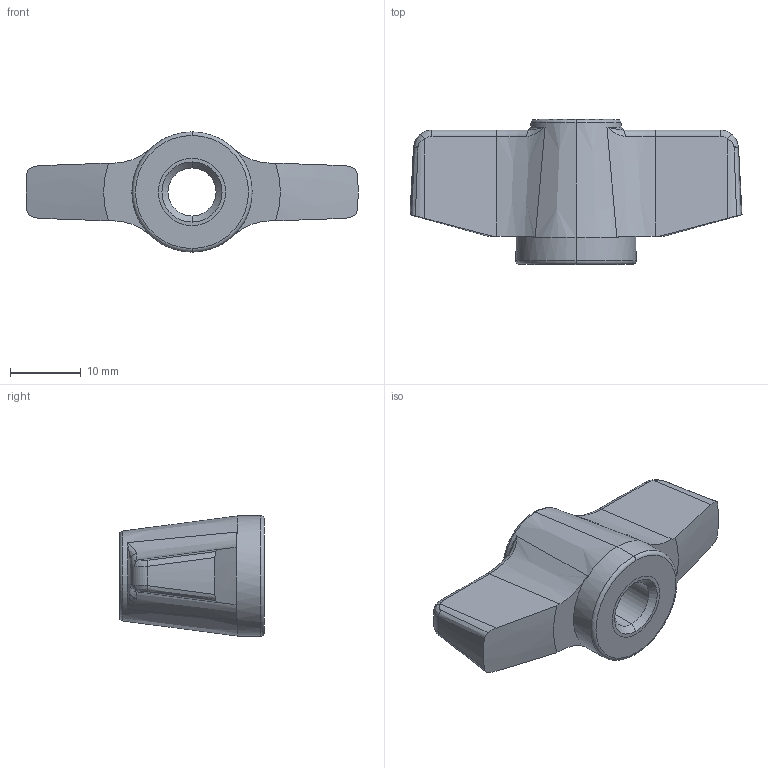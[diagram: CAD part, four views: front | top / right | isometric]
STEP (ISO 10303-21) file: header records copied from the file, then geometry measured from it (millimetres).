
FILE_DESCRIPTION (( 'STEP AP203' ), '1' );
FILE_NAME ('wn715-3_d_m8.step', '2007-01-19T12:37:39', ( 'Magnus Fahlstrom' ), ( '' ), 'SwSTEP 2.0', 'SolidWorks 2007', '' );
FILE_SCHEMA (( 'CONFIG_CONTROL_DESIGN' ));
Length unit declared in the file: millimetre
Products named in the file (1): wn715-3_d_m8
Bounding box: 46.97 x 20.5 x 17 mm (x, y, z)
Volume: 5586.2 mm3; surface area: 3782.8 mm2
Topology: 2 solids, 2 shells, 68 faces, 164 edges, 96 vertices
Faces by surface type: cone 16, bspline 16, cylinder 12, torus 12, plane 12
Entity records: 2451 total; most frequent: CARTESIAN_POINT 909, ORIENTED_EDGE 320, DIRECTION 294, EDGE_CURVE 160, AXIS2_PLACEMENT_3D 129, VERTEX_POINT 96, CIRCLE 76, EDGE_LOOP 72
